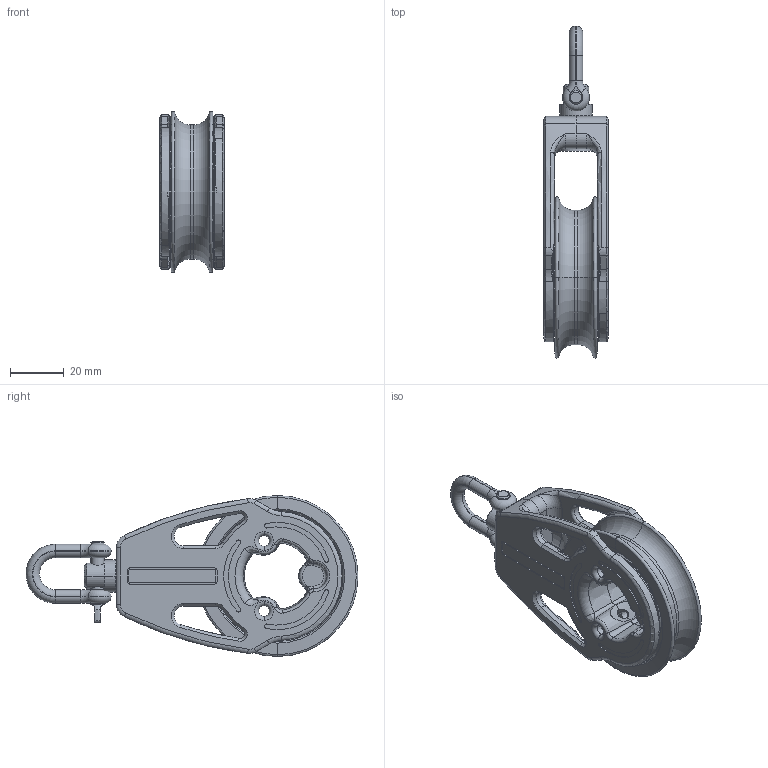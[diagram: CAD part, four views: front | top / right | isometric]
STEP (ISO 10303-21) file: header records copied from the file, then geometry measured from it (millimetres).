
FILE_DESCRIPTION((''),'2;1');
FILE_NAME('29901651_ASM','2005-05-31T',('NBelton'),(''),'PRO/ENGINEER BY PARAMETRIC TECHNOLOGY CORPORATION, 2004320','PRO/ENGINEER BY PARAMETRIC TECHNOLOGY CORPORATION, 2004320','');
FILE_SCHEMA(('CONFIG_CONTROL_DESIGN'));
Length unit declared in the file: millimetre
Products named in the file (7): 25000772; 25002771; 25002777; 25002776; 25002767; 25002768; 29901651_ASM
Assembly tree (7 placements, depth 2):
  29901651_ASM
    25000772
    25002771  x2
    25002777
    25002776
    25002767
    25002768
Bounding box: 24 x 123.7 x 60 mm (x, y, z)
Volume: 48587.4 mm3; surface area: 32897.6 mm2
Topology: 7 solids, 7 shells, 660 faces, 1660 edges, 1031 vertices
Faces by surface type: cylinder 202, torus 146, plane 142, cone 126, bspline 36, sphere 8
Entity records: 14348 total; most frequent: CARTESIAN_POINT 4218, DIRECTION 2224, ORIENTED_EDGE 2054, EDGE_CURVE 1027, AXIS2_PLACEMENT_3D 935, VERTEX_POINT 639, CIRCLE 526, EDGE_LOOP 448
